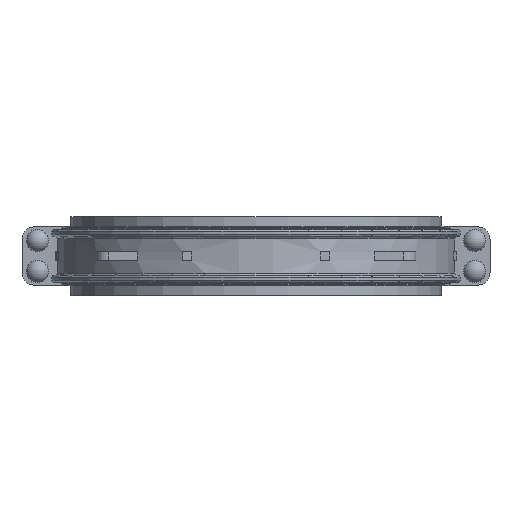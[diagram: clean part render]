
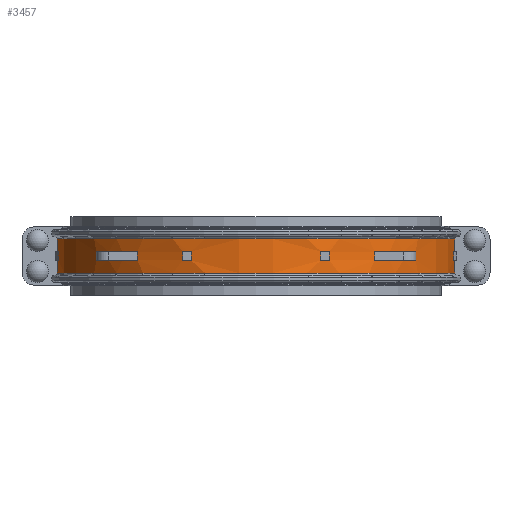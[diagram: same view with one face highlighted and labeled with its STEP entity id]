
A CAD part, front view. The second image highlights one B-rep face of the part: STEP entity #3457.
In plain terms, the highlighted cylindrical face has radius 574.675 mm (diameter 1149.35 mm), a partial arc.
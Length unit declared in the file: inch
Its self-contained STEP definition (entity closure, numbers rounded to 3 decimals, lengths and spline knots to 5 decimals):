
#135=CYLINDRICAL_SURFACE('',#3801,22.625);
#181=FACE_BOUND('',#501,.T.);
#182=FACE_BOUND('',#502,.T.);
#183=FACE_BOUND('',#503,.T.);
#184=FACE_BOUND('',#504,.T.);
#295=FACE_OUTER_BOUND('',#500,.T.);
#500=EDGE_LOOP('',(#2554,#2555,#2556,#2557,#2558,#2559,#2560,#2561,#2562,
#2563,#2564,#2565));
#501=EDGE_LOOP('',(#2566,#2567,#2568,#2569));
#502=EDGE_LOOP('',(#2570,#2571,#2572,#2573));
#503=EDGE_LOOP('',(#2574,#2575,#2576,#2577));
#504=EDGE_LOOP('',(#2578,#2579,#2580,#2581));
#722=LINE('',#5397,#979);
#723=LINE('',#5399,#980);
#726=LINE('',#5404,#983);
#727=LINE('',#5406,#984);
#748=LINE('',#5440,#1005);
#749=LINE('',#5442,#1006);
#752=LINE('',#5447,#1009);
#753=LINE('',#5449,#1010);
#755=LINE('',#5452,#1012);
#756=LINE('',#5454,#1013);
#774=LINE('',#5650,#1031);
#775=LINE('',#5653,#1032);
#776=LINE('',#5655,#1033);
#777=LINE('',#5658,#1034);
#979=VECTOR('',#4401,0.3937);
#980=VECTOR('',#4404,0.3937);
#983=VECTOR('',#4411,0.3937);
#984=VECTOR('',#4414,0.3937);
#1005=VECTOR('',#4461,0.3937);
#1006=VECTOR('',#4464,0.3937);
#1009=VECTOR('',#4471,0.3937);
#1010=VECTOR('',#4474,0.3937);
#1012=VECTOR('',#4478,0.3937);
#1013=VECTOR('',#4481,0.3937);
#1031=VECTOR('',#4513,0.3937);
#1032=VECTOR('',#4516,0.3937);
#1033=VECTOR('',#4517,0.3937);
#1034=VECTOR('',#4520,0.3937);
#1172=CIRCLE('',#3718,22.625);
#1173=CIRCLE('',#3720,22.625);
#1176=CIRCLE('',#3724,22.625);
#1177=CIRCLE('',#3726,22.625);
#1178=CIRCLE('',#3728,22.625);
#1181=CIRCLE('',#3732,22.625);
#1183=CIRCLE('',#3736,22.625);
#1184=CIRCLE('',#3738,22.625);
#1187=CIRCLE('',#3742,22.625);
#1188=CIRCLE('',#3744,22.625);
#1189=CIRCLE('',#3746,22.625);
#1192=CIRCLE('',#3750,22.625);
#1207=CIRCLE('',#3802,22.625);
#1208=CIRCLE('',#3803,22.625);
#1386=VERTEX_POINT('',#5231);
#1387=VERTEX_POINT('',#5232);
#1389=VERTEX_POINT('',#5238);
#1390=VERTEX_POINT('',#5239);
#1394=VERTEX_POINT('',#5249);
#1395=VERTEX_POINT('',#5250);
#1397=VERTEX_POINT('',#5256);
#1398=VERTEX_POINT('',#5257);
#1400=VERTEX_POINT('',#5263);
#1401=VERTEX_POINT('',#5264);
#1406=VERTEX_POINT('',#5275);
#1407=VERTEX_POINT('',#5277);
#1411=VERTEX_POINT('',#5288);
#1412=VERTEX_POINT('',#5289);
#1414=VERTEX_POINT('',#5295);
#1415=VERTEX_POINT('',#5296);
#1419=VERTEX_POINT('',#5306);
#1420=VERTEX_POINT('',#5307);
#1422=VERTEX_POINT('',#5313);
#1423=VERTEX_POINT('',#5314);
#1425=VERTEX_POINT('',#5320);
#1426=VERTEX_POINT('',#5321);
#1430=VERTEX_POINT('',#5331);
#1432=VERTEX_POINT('',#5334);
#1485=VERTEX_POINT('',#5649);
#1486=VERTEX_POINT('',#5651);
#1487=VERTEX_POINT('',#5654);
#1488=VERTEX_POINT('',#5656);
#1746=EDGE_CURVE('',#1386,#1387,#1172,.T.);
#1749=EDGE_CURVE('',#1389,#1390,#1173,.T.);
#1754=EDGE_CURVE('',#1394,#1395,#1176,.T.);
#1757=EDGE_CURVE('',#1397,#1398,#1177,.T.);
#1760=EDGE_CURVE('',#1400,#1401,#1178,.T.);
#1767=EDGE_CURVE('',#1406,#1407,#1181,.T.);
#1771=EDGE_CURVE('',#1411,#1412,#1183,.T.);
#1774=EDGE_CURVE('',#1414,#1415,#1184,.T.);
#1779=EDGE_CURVE('',#1419,#1420,#1187,.T.);
#1782=EDGE_CURVE('',#1422,#1423,#1188,.T.);
#1785=EDGE_CURVE('',#1425,#1426,#1189,.T.);
#1791=EDGE_CURVE('',#1432,#1430,#1192,.T.);
#1820=EDGE_CURVE('',#1423,#1397,#722,.T.);
#1821=EDGE_CURVE('',#1401,#1425,#723,.T.);
#1824=EDGE_CURVE('',#1426,#1400,#726,.T.);
#1825=EDGE_CURVE('',#1407,#1432,#727,.T.);
#1846=EDGE_CURVE('',#1412,#1386,#748,.T.);
#1847=EDGE_CURVE('',#1390,#1414,#749,.T.);
#1850=EDGE_CURVE('',#1415,#1389,#752,.T.);
#1851=EDGE_CURVE('',#1395,#1419,#753,.T.);
#1853=EDGE_CURVE('',#1420,#1394,#755,.T.);
#1854=EDGE_CURVE('',#1398,#1422,#756,.T.);
#1888=EDGE_CURVE('',#1430,#1485,#774,.T.);
#1889=EDGE_CURVE('',#1486,#1485,#1207,.T.);
#1890=EDGE_CURVE('',#1486,#1411,#775,.T.);
#1891=EDGE_CURVE('',#1387,#1487,#776,.T.);
#1892=EDGE_CURVE('',#1487,#1488,#1208,.T.);
#1893=EDGE_CURVE('',#1488,#1406,#777,.T.);
#2554=ORIENTED_EDGE('',*,*,#1825,.T.);
#2555=ORIENTED_EDGE('',*,*,#1791,.T.);
#2556=ORIENTED_EDGE('',*,*,#1888,.T.);
#2557=ORIENTED_EDGE('',*,*,#1889,.F.);
#2558=ORIENTED_EDGE('',*,*,#1890,.T.);
#2559=ORIENTED_EDGE('',*,*,#1771,.T.);
#2560=ORIENTED_EDGE('',*,*,#1846,.T.);
#2561=ORIENTED_EDGE('',*,*,#1746,.T.);
#2562=ORIENTED_EDGE('',*,*,#1891,.T.);
#2563=ORIENTED_EDGE('',*,*,#1892,.T.);
#2564=ORIENTED_EDGE('',*,*,#1893,.T.);
#2565=ORIENTED_EDGE('',*,*,#1767,.T.);
#2566=ORIENTED_EDGE('',*,*,#1760,.T.);
#2567=ORIENTED_EDGE('',*,*,#1821,.T.);
#2568=ORIENTED_EDGE('',*,*,#1785,.T.);
#2569=ORIENTED_EDGE('',*,*,#1824,.T.);
#2570=ORIENTED_EDGE('',*,*,#1757,.T.);
#2571=ORIENTED_EDGE('',*,*,#1854,.T.);
#2572=ORIENTED_EDGE('',*,*,#1782,.T.);
#2573=ORIENTED_EDGE('',*,*,#1820,.T.);
#2574=ORIENTED_EDGE('',*,*,#1754,.T.);
#2575=ORIENTED_EDGE('',*,*,#1851,.T.);
#2576=ORIENTED_EDGE('',*,*,#1779,.T.);
#2577=ORIENTED_EDGE('',*,*,#1853,.T.);
#2578=ORIENTED_EDGE('',*,*,#1749,.T.);
#2579=ORIENTED_EDGE('',*,*,#1847,.T.);
#2580=ORIENTED_EDGE('',*,*,#1774,.T.);
#2581=ORIENTED_EDGE('',*,*,#1850,.T.);
#3457=ADVANCED_FACE('',(#295,#181,#182,#183,#184),#135,.T.);
#3718=AXIS2_PLACEMENT_3D('',#5233,#4250,#4251);
#3720=AXIS2_PLACEMENT_3D('',#5240,#4256,#4257);
#3724=AXIS2_PLACEMENT_3D('',#5251,#4266,#4267);
#3726=AXIS2_PLACEMENT_3D('',#5258,#4272,#4273);
#3728=AXIS2_PLACEMENT_3D('',#5265,#4278,#4279);
#3732=AXIS2_PLACEMENT_3D('',#5279,#4290,#4291);
#3736=AXIS2_PLACEMENT_3D('',#5290,#4300,#4301);
#3738=AXIS2_PLACEMENT_3D('',#5297,#4306,#4307);
#3742=AXIS2_PLACEMENT_3D('',#5308,#4316,#4317);
#3744=AXIS2_PLACEMENT_3D('',#5315,#4322,#4323);
#3746=AXIS2_PLACEMENT_3D('',#5322,#4328,#4329);
#3750=AXIS2_PLACEMENT_3D('',#5335,#4339,#4340);
#3801=AXIS2_PLACEMENT_3D('',#5648,#4511,#4512);
#3802=AXIS2_PLACEMENT_3D('',#5652,#4514,#4515);
#3803=AXIS2_PLACEMENT_3D('',#5657,#4518,#4519);
#4250=DIRECTION('center_axis',(0.,0.,1.));
#4251=DIRECTION('ref_axis',(0.,1.,0.));
#4256=DIRECTION('center_axis',(0.,0.,1.));
#4257=DIRECTION('ref_axis',(0.,1.,0.));
#4266=DIRECTION('center_axis',(0.,0.,1.));
#4267=DIRECTION('ref_axis',(0.,1.,0.));
#4272=DIRECTION('center_axis',(0.,0.,1.));
#4273=DIRECTION('ref_axis',(0.,1.,0.));
#4278=DIRECTION('center_axis',(0.,0.,1.));
#4279=DIRECTION('ref_axis',(0.,1.,0.));
#4290=DIRECTION('center_axis',(0.,0.,1.));
#4291=DIRECTION('ref_axis',(0.,1.,0.));
#4300=DIRECTION('center_axis',(0.,0.,-1.));
#4301=DIRECTION('ref_axis',(0.,1.,0.));
#4306=DIRECTION('center_axis',(0.,0.,-1.));
#4307=DIRECTION('ref_axis',(0.,1.,0.));
#4316=DIRECTION('center_axis',(0.,0.,-1.));
#4317=DIRECTION('ref_axis',(0.,1.,0.));
#4322=DIRECTION('center_axis',(0.,0.,-1.));
#4323=DIRECTION('ref_axis',(0.,1.,0.));
#4328=DIRECTION('center_axis',(0.,0.,-1.));
#4329=DIRECTION('ref_axis',(0.,1.,0.));
#4339=DIRECTION('center_axis',(0.,0.,-1.));
#4340=DIRECTION('ref_axis',(0.,1.,0.));
#4401=DIRECTION('',(0.,0.,1.));
#4404=DIRECTION('',(0.,0.,-1.));
#4411=DIRECTION('',(0.,0.,1.));
#4414=DIRECTION('',(0.,0.,-1.));
#4461=DIRECTION('',(0.,0.,1.));
#4464=DIRECTION('',(0.,0.,-1.));
#4471=DIRECTION('',(0.,0.,1.));
#4474=DIRECTION('',(0.,0.,-1.));
#4478=DIRECTION('',(0.,0.,1.));
#4481=DIRECTION('',(0.,0.,-1.));
#4511=DIRECTION('center_axis',(0.,0.,-1.));
#4512=DIRECTION('ref_axis',(0.,1.,0.));
#4513=DIRECTION('',(0.,0.,-1.));
#4514=DIRECTION('center_axis',(0.,0.,-1.));
#4515=DIRECTION('ref_axis',(0.,1.,0.));
#4516=DIRECTION('',(0.,0.,1.));
#4517=DIRECTION('',(0.,0.,1.));
#4518=DIRECTION('center_axis',(0.,0.,-1.));
#4519=DIRECTION('ref_axis',(0.,1.,0.));
#4520=DIRECTION('',(0.,0.,-1.));
#5231=CARTESIAN_POINT('',(-22.3904,3.24972,0.5));
#5232=CARTESIAN_POINT('',(-22.48645,2.5,0.5));
#5233=CARTESIAN_POINT('Origin',(0.,0.,0.5));
#5238=CARTESIAN_POINT('',(-13.42708,18.21,0.5));
#5239=CARTESIAN_POINT('',(-18.1,13.575,0.5));
#5240=CARTESIAN_POINT('Origin',(0.,0.,0.5));
#5249=CARTESIAN_POINT('',(-7.34375,21.4,0.5));
#5250=CARTESIAN_POINT('',(-8.31,21.04363,0.5));
#5251=CARTESIAN_POINT('Origin',(0.,0.,0.5));
#5256=CARTESIAN_POINT('',(8.31,21.04363,0.5));
#5257=CARTESIAN_POINT('',(7.34375,21.4,0.5));
#5258=CARTESIAN_POINT('Origin',(0.,0.,0.5));
#5263=CARTESIAN_POINT('',(18.1,13.575,0.5));
#5264=CARTESIAN_POINT('',(13.42708,18.21,0.5));
#5265=CARTESIAN_POINT('Origin',(0.,0.,0.5));
#5275=CARTESIAN_POINT('',(22.48645,2.5,0.5));
#5277=CARTESIAN_POINT('',(22.3904,3.24972,0.5));
#5279=CARTESIAN_POINT('Origin',(0.,0.,0.5));
#5288=CARTESIAN_POINT('',(-22.48645,2.5,-0.5));
#5289=CARTESIAN_POINT('',(-22.3904,3.24972,-0.5));
#5290=CARTESIAN_POINT('Origin',(0.,0.,-0.5));
#5295=CARTESIAN_POINT('',(-18.1,13.575,-0.5));
#5296=CARTESIAN_POINT('',(-13.42708,18.21,-0.5));
#5297=CARTESIAN_POINT('Origin',(0.,0.,-0.5));
#5306=CARTESIAN_POINT('',(-8.31,21.04363,-0.5));
#5307=CARTESIAN_POINT('',(-7.34375,21.4,-0.5));
#5308=CARTESIAN_POINT('Origin',(0.,0.,-0.5));
#5313=CARTESIAN_POINT('',(7.34375,21.4,-0.5));
#5314=CARTESIAN_POINT('',(8.31,21.04363,-0.5));
#5315=CARTESIAN_POINT('Origin',(0.,0.,-0.5));
#5320=CARTESIAN_POINT('',(13.42708,18.21,-0.5));
#5321=CARTESIAN_POINT('',(18.1,13.575,-0.5));
#5322=CARTESIAN_POINT('Origin',(0.,0.,-0.5));
#5331=CARTESIAN_POINT('',(22.48645,2.5,-0.5));
#5334=CARTESIAN_POINT('',(22.3904,3.24972,-0.5));
#5335=CARTESIAN_POINT('Origin',(0.,0.,-0.5));
#5397=CARTESIAN_POINT('',(8.31,21.04363,-0.96344));
#5399=CARTESIAN_POINT('',(13.42708,18.21,-0.96344));
#5404=CARTESIAN_POINT('',(18.1,13.575,-0.96344));
#5406=CARTESIAN_POINT('',(22.3904,3.24972,-0.96344));
#5440=CARTESIAN_POINT('',(-22.3904,3.24972,-0.96344));
#5442=CARTESIAN_POINT('',(-18.1,13.575,-0.96344));
#5447=CARTESIAN_POINT('',(-13.42708,18.21,-0.96344));
#5449=CARTESIAN_POINT('',(-8.31,21.04363,-0.96344));
#5452=CARTESIAN_POINT('',(-7.34375,21.4,-0.96344));
#5454=CARTESIAN_POINT('',(7.34375,21.4,-0.96344));
#5648=CARTESIAN_POINT('Origin',(0.,0.,-0.96344));
#5649=CARTESIAN_POINT('',(22.48645,2.5,-1.92688));
#5650=CARTESIAN_POINT('',(22.48645,2.5,-0.96344));
#5651=CARTESIAN_POINT('',(-22.48645,2.5,-1.92688));
#5652=CARTESIAN_POINT('Origin',(0.,0.,-1.92688));
#5653=CARTESIAN_POINT('',(-22.48645,2.5,-0.96344));
#5654=CARTESIAN_POINT('',(-22.48645,2.5,1.92688));
#5655=CARTESIAN_POINT('',(-22.48645,2.5,-0.96344));
#5656=CARTESIAN_POINT('',(22.48645,2.5,1.92688));
#5657=CARTESIAN_POINT('Origin',(0.,0.,1.92688));
#5658=CARTESIAN_POINT('',(22.48645,2.5,-0.96344));
